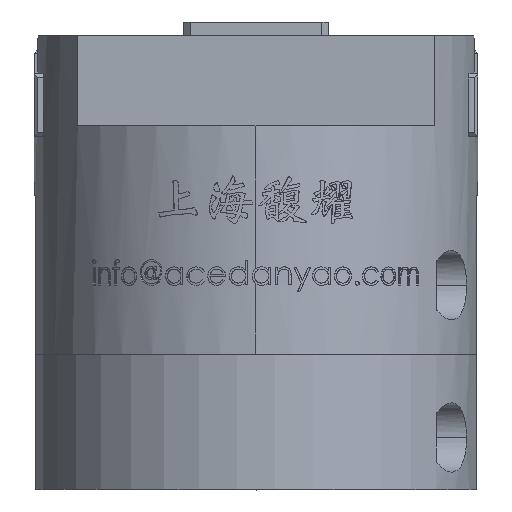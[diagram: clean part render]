
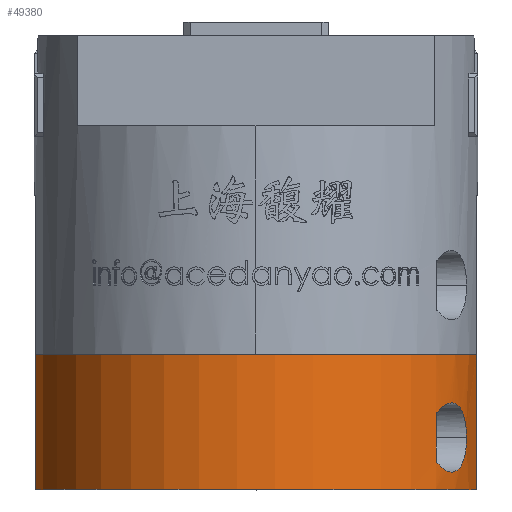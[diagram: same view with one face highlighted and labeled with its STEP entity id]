
A CAD part, top view. The second image highlights one B-rep face of the part: STEP entity #49380.
In plain terms, the highlighted cylindrical face has radius 32 mm (diameter 64 mm), a partial arc.
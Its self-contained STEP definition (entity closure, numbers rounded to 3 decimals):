
#817 = EDGE_CURVE ( 'NONE', #83968, #1634, #10876, .T. ) ;
#1212 = CARTESIAN_POINT ( 'NONE',  ( 26., 10.912, 18.655 ) ) ;
#1264 = CARTESIAN_POINT ( 'NONE',  ( 30.397, 7.5, 10. ) ) ;
#1545 = CARTESIAN_POINT ( 'NONE',  ( 30.369, 6.428, 10.086 ) ) ;
#1634 = VERTEX_POINT ( 'NONE', #79156 ) ;
#1829 = CARTESIAN_POINT ( 'NONE',  ( 27.821, 2.561, 15.813 ) ) ;
#2435 = FACE_BOUND ( 'NONE', #33072, .T. ) ;
#3395 = DIRECTION ( 'NONE',  ( 0., 1., 0. ) ) ;
#5082 = CARTESIAN_POINT ( 'NONE',  ( 27.824, 12.44, 15.808 ) ) ;
#5378 = CARTESIAN_POINT ( 'NONE',  ( 30.108, 10.288, 10.841 ) ) ;
#5922 = DIRECTION ( 'NONE',  ( 0., 1., 0. ) ) ;
#8034 = CARTESIAN_POINT ( 'NONE',  ( 30.397, 6.956, 10. ) ) ;
#8237 = ORIENTED_EDGE ( 'NONE', *, *, #817, .T. ) ;
#8327 = CARTESIAN_POINT ( 'NONE',  ( 30.169, 4.934, 10.676 ) ) ;
#8625 = CARTESIAN_POINT ( 'NONE',  ( 27.291, 2.781, 16.718 ) ) ;
#9259 = CARTESIAN_POINT ( 'NONE',  ( 0., 19.5, 0. ) ) ;
#9536 = LINE ( 'NONE', #37659, #77096 ) ;
#10876 = B_SPLINE_CURVE_WITH_KNOTS ( 'NONE', 3,
 ( #72393, #45267, #18066, #31974, #79145, #38773, #85923, #45568, #5082, #52307, #11874, #59073, #18644, #65872, #25433, #72697, #32264, #79446, #39076, #86226, #45858, #5378, #52610, #12165, #59378, #18946, #66173, #25738 ),
 .UNSPECIFIED., .F., .F.,
 ( 4, 2, 2, 2, 2, 2, 2, 2, 2, 2, 2, 2, 2, 4 ),
 ( -0.013, -0.011, -0.01, -0.01, -0.009, -0.008, -0.006, -0.006, -0.005, -0.004, -0.003, -0.002, -0.002, 0. ),
 .UNSPECIFIED. ) ;
#11874 = CARTESIAN_POINT ( 'NONE',  ( 28.215, 12.505, 15.1 ) ) ;
#12165 = CARTESIAN_POINT ( 'NONE',  ( 30.246, 9.589, 10.45 ) ) ;
#12999 = EDGE_CURVE ( 'NONE', #59790, #41821, #38176, .T. ) ;
#13369 = CIRCLE ( 'NONE', #31212, 32. ) ;
#14976 = DIRECTION ( 'NONE',  ( 0., 1., 0. ) ) ;
#15109 = CARTESIAN_POINT ( 'NONE',  ( 29.795, 3.724, 11.683 ) ) ;
#15392 = CARTESIAN_POINT ( 'NONE',  ( 26.493, 3.44, 17.954 ) ) ;
#16507 = DIRECTION ( 'NONE',  ( 0., 1., 0. ) ) ;
#17431 = EDGE_CURVE ( 'NONE', #41821, #33276, #9536, .T. ) ;
#18066 = CARTESIAN_POINT ( 'NONE',  ( 26.494, 11.562, 17.953 ) ) ;
#18644 = CARTESIAN_POINT ( 'NONE',  ( 28.821, 12.406, 13.914 ) ) ;
#18946 = CARTESIAN_POINT ( 'NONE',  ( 30.368, 8.587, 10.09 ) ) ;
#20374 = FACE_OUTER_BOUND ( 'NONE', #63347, .T. ) ;
#21192 = ORIENTED_EDGE ( 'NONE', *, *, #17431, .T. ) ;
#21882 = CARTESIAN_POINT ( 'NONE',  ( 29.258, 2.903, 12.971 ) ) ;
#22170 = CARTESIAN_POINT ( 'NONE',  ( 26., 4.088, 18.655 ) ) ;
#24539 = CARTESIAN_POINT ( 'NONE',  ( -31.808, 19.5, 3.5 ) ) ;
#25433 = CARTESIAN_POINT ( 'NONE',  ( 29.252, 12.079, 12.976 ) ) ;
#25738 = CARTESIAN_POINT ( 'NONE',  ( 30.397, 7.5, 10. ) ) ;
#28707 = CARTESIAN_POINT ( 'NONE',  ( 28.817, 2.613, 13.916 ) ) ;
#29211 = ORIENTED_EDGE ( 'NONE', *, *, #74233, .F. ) ;
#30408 = LINE ( 'NONE', #24539, #34675 ) ;
#31212 = AXIS2_PLACEMENT_3D ( 'NONE', #46402, #5922, #53156 ) ;
#31974 = CARTESIAN_POINT ( 'NONE',  ( 26.889, 11.919, 17.35 ) ) ;
#32264 = CARTESIAN_POINT ( 'NONE',  ( 29.536, 11.726, 12.315 ) ) ;
#33072 = EDGE_LOOP ( 'NONE', ( #73545, #8237, #81034 ) ) ;
#33276 = VERTEX_POINT ( 'NONE', #65014 ) ;
#34593 = VERTEX_POINT ( 'NONE', #59436 ) ;
#34675 = VECTOR ( 'NONE', #71789, 1000. ) ;
#35500 = CARTESIAN_POINT ( 'NONE',  ( 28.461, 2.508, 14.63 ) ) ;
#37659 = CARTESIAN_POINT ( 'NONE',  ( 31.808, 19.5, 3.5 ) ) ;
#38176 = CIRCLE ( 'NONE', #74727, 32. ) ;
#38773 = CARTESIAN_POINT ( 'NONE',  ( 27.293, 12.205, 16.708 ) ) ;
#39076 = CARTESIAN_POINT ( 'NONE',  ( 29.785, 11.265, 11.699 ) ) ;
#41821 = VERTEX_POINT ( 'NONE', #44674 ) ;
#42287 = CARTESIAN_POINT ( 'NONE',  ( 28.082, 2.506, 15.346 ) ) ;
#43963 = EDGE_CURVE ( 'NONE', #1634, #83768, #57111, .T. ) ;
#44674 = CARTESIAN_POINT ( 'NONE',  ( 31.808, 0., 3.5 ) ) ;
#45267 = CARTESIAN_POINT ( 'NONE',  ( 26.239, 11.269, 18.322 ) ) ;
#45568 = CARTESIAN_POINT ( 'NONE',  ( 27.692, 12.397, 16.038 ) ) ;
#45822 = LINE ( 'NONE', #56941, #47958 ) ;
#45858 = CARTESIAN_POINT ( 'NONE',  ( 29.993, 10.707, 11.155 ) ) ;
#46402 = CARTESIAN_POINT ( 'NONE',  ( 0., 19.5, 0. ) ) ;
#46709 = EDGE_CURVE ( 'NONE', #83768, #83968, #45822, .T. ) ;
#47958 = VECTOR ( 'NONE', #16507, 1000. ) ;
#48797 = CARTESIAN_POINT ( 'NONE',  ( 30.253, 5.403, 10.429 ) ) ;
#49082 = CARTESIAN_POINT ( 'NONE',  ( 27.689, 2.604, 16.043 ) ) ;
#49380 = ADVANCED_FACE ( 'NONE', ( #20374, #2435 ), #49973, .T. ) ;
#49715 = DIRECTION ( 'NONE',  ( 0., -1., 0. ) ) ;
#49973 = CYLINDRICAL_SURFACE ( 'NONE', #73530, 32. ) ;
#52307 = CARTESIAN_POINT ( 'NONE',  ( 28.085, 12.494, 15.339 ) ) ;
#52610 = CARTESIAN_POINT ( 'NONE',  ( 30.159, 10.064, 10.699 ) ) ;
#53156 = DIRECTION ( 'NONE',  ( 0., 0., -1. ) ) ;
#55401 = CARTESIAN_POINT ( 'NONE',  ( 0., 0., 0. ) ) ;
#55539 = CARTESIAN_POINT ( 'NONE',  ( 29.936, 4.083, 11.311 ) ) ;
#55833 = CARTESIAN_POINT ( 'NONE',  ( 27.017, 2.965, 17.156 ) ) ;
#56456 = DIRECTION ( 'NONE',  ( 0., 0., -1. ) ) ;
#56941 = CARTESIAN_POINT ( 'NONE',  ( 26., 19.5, 18.655 ) ) ;
#57111 = B_SPLINE_CURVE_WITH_KNOTS ( 'NONE', 3,
 ( #1264, #8034, #1545, #48797, #8327, #55539, #15109, #62315, #21882, #69126, #28707, #75899, #35500, #82671, #42287, #1829, #49082, #8625, #55833, #15392, #62596, #22170 ),
 .UNSPECIFIED., .F., .F.,
 ( 4, 2, 2, 2, 2, 2, 2, 2, 2, 2, 4 ),
 ( 0., 0.002, 0.003, 0.005, 0.006, 0.007, 0.008, 0.009, 0.01, 0.011, 0.013 ),
 .UNSPECIFIED. ) ;
#59073 = CARTESIAN_POINT ( 'NONE',  ( 28.588, 12.485, 14.388 ) ) ;
#59378 = CARTESIAN_POINT ( 'NONE',  ( 30.282, 9.345, 10.345 ) ) ;
#59436 = CARTESIAN_POINT ( 'NONE',  ( -31.808, 19.5, 3.5 ) ) ;
#59790 = VERTEX_POINT ( 'NONE', #63376 ) ;
#62175 = DIRECTION ( 'NONE',  ( 0., 0., -1. ) ) ;
#62315 = CARTESIAN_POINT ( 'NONE',  ( 29.452, 3.127, 12.522 ) ) ;
#62596 = CARTESIAN_POINT ( 'NONE',  ( 26.239, 3.731, 18.322 ) ) ;
#63347 = EDGE_LOOP ( 'NONE', ( #29211, #69357, #66197, #21192 ) ) ;
#63376 = CARTESIAN_POINT ( 'NONE',  ( -31.808, 0., 3.5 ) ) ;
#65014 = CARTESIAN_POINT ( 'NONE',  ( 31.808, 19.5, 3.5 ) ) ;
#65872 = CARTESIAN_POINT ( 'NONE',  ( 29.149, 12.174, 13.207 ) ) ;
#66173 = CARTESIAN_POINT ( 'NONE',  ( 30.397, 8.044, 10. ) ) ;
#66197 = ORIENTED_EDGE ( 'NONE', *, *, #12999, .T. ) ;
#69126 = CARTESIAN_POINT ( 'NONE',  ( 28.931, 2.672, 13.677 ) ) ;
#69357 = ORIENTED_EDGE ( 'NONE', *, *, #69414, .T. ) ;
#69414 = EDGE_CURVE ( 'NONE', #34593, #59790, #30408, .T. ) ;
#71789 = DIRECTION ( 'NONE',  ( 0., -1., 0. ) ) ;
#72393 = CARTESIAN_POINT ( 'NONE',  ( 26., 10.912, 18.655 ) ) ;
#72697 = CARTESIAN_POINT ( 'NONE',  ( 29.445, 11.855, 12.531 ) ) ;
#73530 = AXIS2_PLACEMENT_3D ( 'NONE', #9259, #49715, #56456 ) ;
#73545 = ORIENTED_EDGE ( 'NONE', *, *, #46709, .T. ) ;
#74233 = EDGE_CURVE ( 'NONE', #34593, #33276, #13369, .T. ) ;
#74727 = AXIS2_PLACEMENT_3D ( 'NONE', #55401, #14976, #62175 ) ;
#75899 = CARTESIAN_POINT ( 'NONE',  ( 28.582, 2.531, 14.391 ) ) ;
#77096 = VECTOR ( 'NONE', #3395, 1000. ) ;
#79145 = CARTESIAN_POINT ( 'NONE',  ( 27.024, 12.025, 17.139 ) ) ;
#79156 = CARTESIAN_POINT ( 'NONE',  ( 30.397, 7.5, 10. ) ) ;
#79446 = CARTESIAN_POINT ( 'NONE',  ( 29.706, 11.432, 11.901 ) ) ;
#81034 = ORIENTED_EDGE ( 'NONE', *, *, #43963, .T. ) ;
#82671 = CARTESIAN_POINT ( 'NONE',  ( 28.211, 2.495, 15.107 ) ) ;
#82722 = CARTESIAN_POINT ( 'NONE',  ( 26., 4.088, 18.655 ) ) ;
#83768 = VERTEX_POINT ( 'NONE', #82722 ) ;
#83968 = VERTEX_POINT ( 'NONE', #1212 ) ;
#85923 = CARTESIAN_POINT ( 'NONE',  ( 27.427, 12.279, 16.487 ) ) ;
#86226 = CARTESIAN_POINT ( 'NONE',  ( 29.929, 10.902, 11.327 ) ) ;
